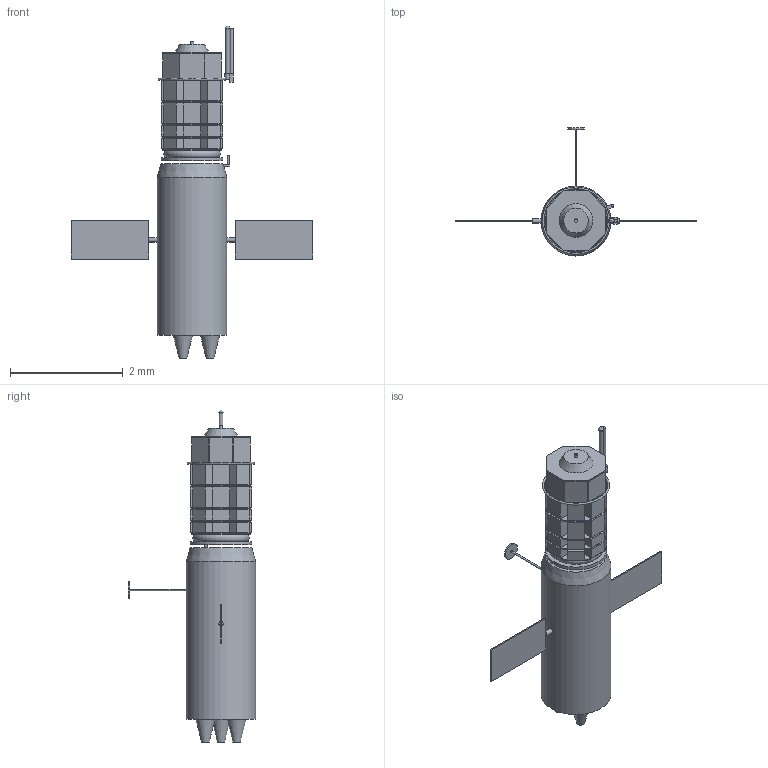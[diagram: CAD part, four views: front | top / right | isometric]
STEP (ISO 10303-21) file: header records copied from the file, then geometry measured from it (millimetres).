
FILE_DESCRIPTION(('Open CASCADE Model'),'2;1');
FILE_NAME('Open CASCADE Shape Model','2026-10-04T09:10:04',('Author'),( 'Open CASCADE'),'Open CASCADE STEP processor 7.9','Open CASCADE 7.9' ,'Unknown');
FILE_SCHEMA(('AUTOMOTIVE_DESIGN { 1 0 10303 214 1 1 1 1 }'));
Length unit declared in the file: millimetre
Products named in the file (70): LELP-1; bay_ring_1; bay_ring_2; bay_ring_3; bay_ring_4; bay_ring_5_top; central_core; bay_M_01_Zurich_Biotech_Lab; bay_M_02_Bengaluru_Biosciences; bay_M_03_Basel_Pharma_Research; bay_M_04_Hyderabad_Cell_Lab; bay_M_05_Lausanne_Materials; bay_M_06_Geneva_Protein_Lab; bay_M_07_Chennai_Microfluidics; bay_M_08_Pune_Plant_Science; bay_M_09_Zurich_Biotech_Lab; bay_M_10_Bengaluru_Biosciences; bay_M_11_Basel_Pharma_Research; bay_M_12_Hyderabad_Cell_Lab; bay_M_13_Lausanne_Materials; bay_M_14_Geneva_Protein_Lab; bay_M_15_Chennai_Microfluidics; bay_M_16_Pune_Plant_Science; bay_L_17_RadSenRegen; bay_L_18_Bengaluru_Biosciences; bay_L_19_Basel_Pharma_Research; bay_L_20_Hyderabad_Cell_Lab; bay_L_21_Lausanne_Materials; bay_L_22_Geneva_Protein_Lab; bay_L_23_Chennai_Microfluidics; bay_L_24_Pune_Plant_Science; bay_L_25_Zurich_Biotech_Lab; bay_L_26_Bengaluru_Biosciences; bay_L_27_Basel_Pharma_Research; bay_L_28_Hyderabad_Cell_Lab; bay_L_29_Lausanne_Materials; bay_L_30_Geneva_Protein_Lab; bay_L_31_Chennai_Microfluidics; bay_L_32_Pune_Plant_Science; translation_rig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
Assembly tree (69 placements, depth 2):
  LELP-1
    bay_ring_1
    bay_ring_2
    bay_ring_3
    bay_ring_4
    bay_ring_5_top
    central_core
    bay_M_01_Zurich_Biotech_Lab
    bay_M_02_Bengaluru_Biosciences
    bay_M_03_Basel_Pharma_Research
    bay_M_04_Hyderabad_Cell_Lab
    bay_M_05_Lausanne_Materials
    bay_M_06_Geneva_Protein_Lab
    bay_M_07_Chennai_Microfluidics
    bay_M_08_Pune_Plant_Science
    bay_M_09_Zurich_Biotech_Lab
    bay_M_10_Bengaluru_Biosciences
    bay_M_11_Basel_Pharma_Research
    bay_M_12_Hyderabad_Cell_Lab
    bay_M_13_Lausanne_Materials
    bay_M_14_Geneva_Protein_Lab
    bay_M_15_Chennai_Microfluidics
    bay_M_16_Pune_Plant_Science
    bay_L_17_RadSenRegen
    bay_L_18_Bengaluru_Biosciences
    bay_L_19_Basel_Pharma_Research
    bay_L_20_Hyderabad_Cell_Lab
    bay_L_21_Lausanne_Materials
    bay_L_22_Geneva_Protein_Lab
    bay_L_23_Chennai_Microfluidics
    bay_L_24_Pune_Plant_Science
    bay_L_25_Zurich_Biotech_Lab
    bay_L_26_Bengaluru_Biosciences
    bay_L_27_Basel_Pharma_Research
    bay_L_28_Hyderabad_Cell_Lab
    bay_L_29_Lausanne_Materials
    bay_L_30_Geneva_Protein_Lab
    bay_L_31_Chennai_Microfluidics
    bay_L_32_Pune_Plant_Science
    translation_rig
    central_chamber_wall
    40x_fluorescence_microscope
    chamber_lid
    parachute_canister_9_m_main
    recovery_beacon
    avionics_radios_Sentinel_crypto_unit
    battery_1_5_kWh
    ADCS_3_reaction_wheels_star_tracker_magnetorquers
    thermal_control
    heat_shield_packed_4_tori_flexible_TPS
    rigid_nose_stowed_under_the_lab
    Dexter-L_ring_track
    Dexter-L_base_and_shoulder
    Dexter-L_upper_arm_0_80_m
    Dexter-L_elbow
    Dexter-L_forearm_0_80_m
    Dexter-L_wrist_and_gripper_0_15_m
    stage_adapter
    RUPAK_upper_stage_simplified
    Vibhu_engine_1
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Bounding box: 4.28 x 2.27 x 5.9 mm (x, y, z)
Volume: 5 mm3; surface area: 59.3 mm2
Topology: 69 solids, 69 shells, 391 faces, 775 edges, 516 vertices
Faces by surface type: plane 372, cylinder 11, cone 5, torus 2, sphere 1
Full cylindrical faces by diameter (mm): 0.03 x1, 0.04 x1, 0.056 x1, 0.06 x1, 0.07 x1, 0.08 x2, 0.11 x1, 0.3 x1, 1.1 x1, 1.24 x1
Entity records: 21572 total; most frequent: CARTESIAN_POINT 3324, DIRECTION 3242, LINE 2216, VECTOR 2216, ORIENTED_EDGE 1544, PCURVE 1544, DEFINITIONAL_REPRESENTATION 1544, EDGE_CURVE 772
